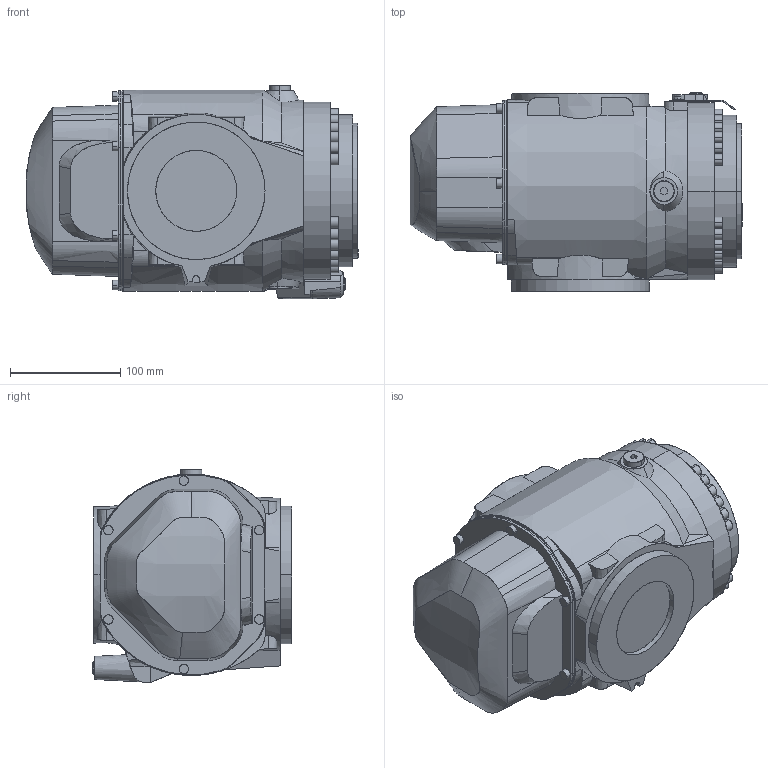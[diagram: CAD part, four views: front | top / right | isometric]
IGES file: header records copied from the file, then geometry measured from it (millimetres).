
Start section: SolidWorks IGES file using analytic representation for surfaces
Global section: file name: C:\Users\SEALDUN\OneDrive - ABB\Documents\R&D Robotics\Work Items\WI 632927 light weight hole removal\IGES\IRB5720-MH3_180kg-260_OC_03_IGES_J\IRB5720-MH3_180kg-260_OmniCore_rev00_LINK05_CAD.igs; native system: SolidWorks 2024; preprocessor: SolidWorks 2024; author: SEALDUN; date: 250708.132520; units: millimetre
Bounding box: 301.69 x 181 x 194.1 mm (x, y, z)
Surface area: 231349 mm2 (no closed solid volume)
Topology: 0 solids, 0 shells, 495 faces, 7564 edges, 7559 vertices
Faces by surface type: bspline 271, revolution 224
